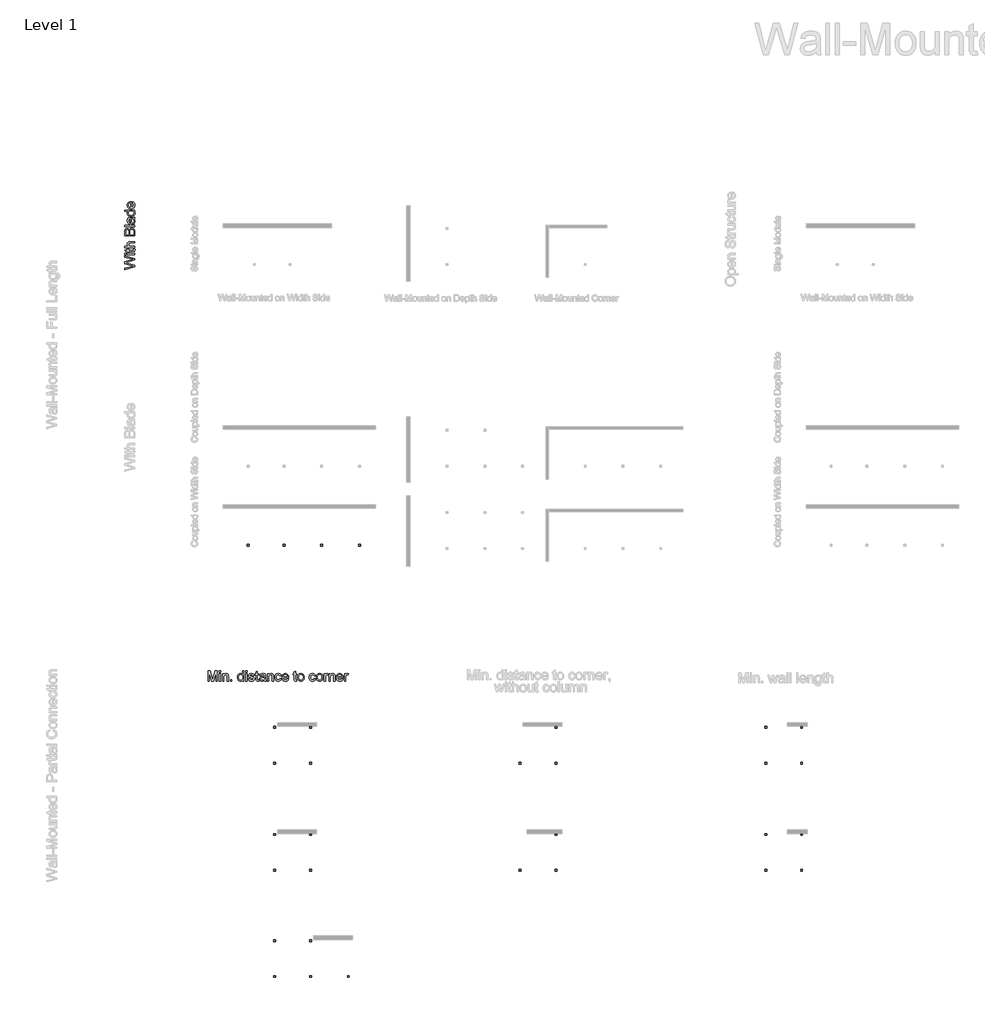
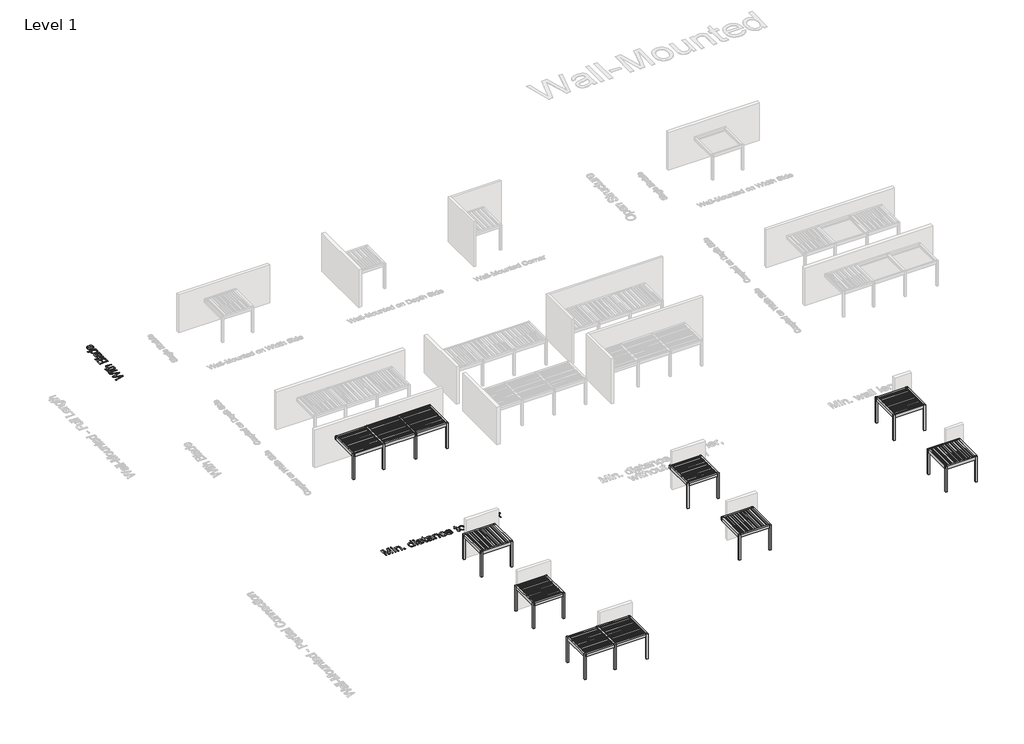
# One storey, part 56 of 80: 10 proxies.
"""IFC4 building model written with IfcOpenShell, lengths in millimetres."""

from ifc_helpers import new_model, si_unit, origin, origin_with_axes, place, context, project, spatial, polyline, outline, extrude, transform, mapped, element, save
from components import generic_models_2c613ce0, generic_models_db7d870b, generic_models_59e5db6b, generic_models_9754287f, generic_models_5084beef, generic_models_72b72d81

model = new_model("IFC4")

# Units and contexts
model_context = context("Model", 3, world=origin())
ifc_project = project(units=[si_unit("LENGTHUNIT", "METRE", prefix="MILLI")], contexts=[model_context])

# Site, building, storey
site = spatial("IfcSite", under=ifc_project)
building = spatial("IfcBuilding", under=site)
storey = spatial("IfcBuildingStorey", under=building, Name="Level 1", Elevation=0.0)

# Proxies
placement = place(None, origin())
generic_models_shape = generic_models_2c613ce0(model_context)
element("IfcBuildingElementProxy", 1, Name="Renson_Amani_Patio_Cover : Renson_Amani_Patio_Cover", ObjectType="Renson_Amani_Patio_Cover : Renson_Amani_Patio_Cover", at=placement, inside=storey, context=model_context, shape_type="MappedRepresentation", body=[
    mapped(generic_models_shape, transform((131453.165057, 45234.0685101, 0.0), x_axis=(1.0, 0.0, 0.0), y_axis=(0.0, 1.0, 0.0), z_axis=(0.0, 0.0, 1.0))),
])
generic_models_2_shape = generic_models_db7d870b(model_context)
element("IfcBuildingElementProxy", 2, Name="Renson_Amani_Patio_Cover : Renson_Amani_Patio_Cover", ObjectType="Renson_Amani_Patio_Cover : Renson_Amani_Patio_Cover", at=placement, inside=storey, context=model_context, shape_type="MappedRepresentation", body=[
    mapped(generic_models_2_shape, transform((133563.165057, 19428.5861401, 0.0), x_axis=(1.0, 0.0, 0.0), y_axis=(0.0, 1.0, 0.0), z_axis=(0.0, 0.0, 1.0))),
])
element("IfcBuildingElementProxy", 3, Name="Renson_Amani_Patio_Cover : Renson_Amani_Patio_Cover", ObjectType="Renson_Amani_Patio_Cover : Renson_Amani_Patio_Cover", at=placement, inside=storey, context=model_context, shape_type="MappedRepresentation", body=[
    mapped(generic_models_2_shape, transform((172563.165057, 27928.5861401, 0.0), x_axis=(1.0, 0.0, 0.0), y_axis=(0.0, 1.0, 0.0), z_axis=(0.0, 0.0, 1.0))),
])
generic_models_3_shape = generic_models_59e5db6b(model_context)
element("IfcBuildingElementProxy", 4, Name="Renson_Amani_Patio_Cover : Renson_Amani_Patio_Cover", ObjectType="Renson_Amani_Patio_Cover : Renson_Amani_Patio_Cover", at=placement, inside=storey, context=model_context, shape_type="MappedRepresentation", body=[
    mapped(generic_models_3_shape, transform((153063.165057, 27928.5861401, 0.0), x_axis=(1.0, 0.0, 0.0), y_axis=(0.0, 1.0, 0.0), z_axis=(0.0, 0.0, 1.0))),
])
generic_models_4_shape = generic_models_9754287f(model_context)
element("IfcBuildingElementProxy", 5, Name="Renson_Amani_Patio_Cover : Renson_Amani_Patio_Cover", ObjectType="Renson_Amani_Patio_Cover : Renson_Amani_Patio_Cover", at=placement, inside=storey, context=model_context, shape_type="MappedRepresentation", body=[
    mapped(generic_models_4_shape, transform((133563.165057, 11004.0136657, 0.0), x_axis=(1.0, 0.0, 0.0), y_axis=(0.0, 1.0, 0.0), z_axis=(0.0, 0.0, 1.0))),
])
generic_models_5_shape = generic_models_5084beef(model_context)
element("IfcBuildingElementProxy", 6, Name="Renson_Amani_Patio_Cover : Renson_Amani_Patio_Cover", ObjectType="Renson_Amani_Patio_Cover : Renson_Amani_Patio_Cover", at=placement, inside=storey, context=model_context, shape_type="MappedRepresentation", body=[
    mapped(generic_models_5_shape, transform((153063.165057, 19428.5861401, 0.0), x_axis=(1.0, 0.0, 0.0), y_axis=(0.0, 1.0, 0.0), z_axis=(0.0, 0.0, 1.0))),
])
generic_models_6_shape = generic_models_72b72d81(model_context)
element("IfcBuildingElementProxy", 7, Name="Renson_Amani_Patio_Cover : Renson_Amani_Patio_Cover", ObjectType="Renson_Amani_Patio_Cover : Renson_Amani_Patio_Cover", at=placement, inside=storey, context=model_context, shape_type="MappedRepresentation", body=[
    mapped(generic_models_6_shape, transform((133563.165057, 27928.5861401, 0.0), x_axis=(1.0, 0.0, 0.0), y_axis=(0.0, 1.0, 0.0), z_axis=(0.0, 0.0, 1.0))),
])
element("IfcBuildingElementProxy", 8, Name="Renson_Amani_Patio_Cover : Renson_Amani_Patio_Cover", ObjectType="Renson_Amani_Patio_Cover : Renson_Amani_Patio_Cover", at=placement, inside=storey, context=model_context, shape_type="MappedRepresentation", body=[
    mapped(generic_models_6_shape, transform((172563.165057, 19428.5861401, 0.0), x_axis=(1.0, 0.0, 0.0), y_axis=(0.0, 1.0, 0.0), z_axis=(0.0, 0.0, 1.0))),
])
element("IfcBuildingElementProxy", 9, Name="800mm Arial", ObjectType="800mm Arial", at=placement, inside=storey, context=model_context, shape_type="SweptSolid", body=[
    extrude(outline(polyline([(121031.971127, 65919.511302), (120232.5824286, 65701.5139446), (120232.5824286, 65804.560144), (120757.9619149, 65931.0259342), (120920.142581, 65970.0585854), (120776.6975875, 66011.8235223), (120232.5824286, 66170.2960865), (120232.5824286, 66318.8153247), (120627.0073699, 66433.961646), (120773.3798122, 66483.289159), (120920.142581, 66519.6383156), (120762.6458331, 66557.4999873), (120232.5824286, 66685.136757), (120232.5824286, 66788.1829564), (121031.971127, 66569.9904357), (121031.971127, 66463.2361344), (120415.2552366, 66271.5858166), (120329.1882405, 66244.8484505), (120432.8199297, 66214.793309), (121031.971127, 66040.1221945), (121031.971127, 65919.511302)])), origin_with_axes(), (0.0, 0.0, 1.0), 5.0),
    extrude(outline(polyline([(121031.971127, 66875.6160953), (120444.9200516, 66875.6160953), (120444.9200516, 66975.5396826), (121031.971127, 66975.5396826), (121031.971127, 66875.6160953)])), origin_with_axes(), (0.0, 0.0, 1.0), 5.0),
    extrude(outline(polyline([(120332.5060159, 66875.6160953), (120232.5824286, 66875.6160953), (120232.5824286, 66975.5396826), (120332.5060159, 66975.5396826), (120332.5060159, 66875.6160953)])), origin_with_axes(), (0.0, 0.0, 1.0), 5.0),
    extrude(outline(polyline([(120948.6364165, 67337.7626865), (121034.8985758, 67350.2531349), (121042.0708255, 67310.6837847), (121044.4615754, 67275.5056077), (121040.3143562, 67227.5442374), (121027.8726986, 67191.7805707), (121008.6979086, 67166.506929), (120984.3512924, 67150.0156338), (120942.5375647, 67140.9405424), (120870.9614404, 67137.9155119), (120544.8436389, 67137.9155119), (120544.8436389, 67062.9728215), (120444.9200516, 67062.9728215), (120444.9200516, 67137.9155119), (120302.2557112, 67137.9155119), (120243.511571, 67237.8390992), (120444.9200516, 67237.8390992), (120444.9200516, 67337.7626865), (120544.8436389, 67337.7626865), (120544.8436389, 67237.8390992), (120868.0339916, 67237.8390992), (120900.9190003, 67239.1564512), (120919.5570913, 67243.1085071), (120929.8763484, 67250.0124073), (120937.8048557, 67260.1852921), (120942.854705, 67274.6029776), (120944.5379881, 67294.2412803), (120948.6364165, 67337.7626865)])), origin_with_axes(), (0.0, 0.0, 1.0), 5.0),
    extrude(outline(polyline([(121031.971127, 67437.6862738), (120232.5824286, 67437.6862738), (120232.5824286, 67537.6098611), (120526.4982928, 67537.6098611), (120485.3432411, 67574.312751), (120455.9467756, 67615.5287912), (120438.3088963, 67661.2579817), (120432.4296032, 67711.5003226), (120434.0336012, 67742.7386413), (120438.8455953, 67771.8545596), (120446.8655853, 67798.8480775), (120458.0935714, 67823.719195), (120472.1514247, 67845.8336315), (120488.6610165, 67864.5571064), (120507.6223466, 67879.8896198), (120529.0354151, 67891.8311715), (120554.2236729, 67900.7964836), (120584.5105708, 67907.200278), (120660.3802867, 67912.3233134), (121031.971127, 67912.3233134), (121031.971127, 67812.3997262), (120670.7239393, 67812.3997262), (120636.9850913, 67810.4115005), (120608.1741156, 67804.4468235), (120584.2910121, 67794.5056951), (120565.3357808, 67780.5881154), (120550.9058976, 67763.0234223), (120540.5988381, 67742.1409538), (120534.4146024, 67717.94071), (120532.3531905, 67690.4226909), (120537.9153433, 67648.1942413), (120554.6018017, 67608.5517048), (120566.7141213, 67590.7552554), (120580.8024689, 67575.7154869), (120596.8668444, 67563.4323995), (120614.907248, 67553.905993), (120660.2339143, 67541.6838941), (120720.1002432, 67537.6098611), (121031.971127, 67537.6098611), (121031.971127, 67437.6862738)])), origin_with_axes(), (0.0, 0.0, 1.0), 5.0),
    extrude(outline(polyline([(121031.971127, 68374.4699047), (120232.5824286, 68374.4699047), (120232.5824286, 68679.5100745), (120234.0522519, 68723.757244), (120238.4617217, 68763.4058793), (120245.8108381, 68798.4559804), (120256.099601, 68828.9075473), (120269.4377898, 68855.5351341), (120285.9351838, 68879.113295), (120305.5917831, 68899.64203), (120328.4075875, 68917.1213392), (120353.0957395, 68931.0816109), (120378.3693812, 68941.0532335), (120404.2285126, 68947.0362071), (120430.6731339, 68949.0305316), (120455.0990352, 68947.3533474), (120478.805272, 68942.3217947), (120501.7918443, 68933.9358735), (120524.0587521, 68922.1955838), (120544.9107263, 68907.0643326), (120563.6524977, 68888.5055267), (120580.2840665, 68866.5191661), (120594.8054326, 68841.1052508), (120607.6618121, 68871.2640728), (120624.3726659, 68897.7269906), (120644.937994, 68920.4940042), (120669.3577965, 68939.5651137), (120696.8880134, 68954.6353764), (120726.7845847, 68965.3998497), (120759.0475105, 68971.8585338), (120793.6767909, 68974.0114284), (120849.420296, 68968.1321353), (120901.1141635, 68950.494256), (120945.074687, 68924.1716118), (120977.61816, 68892.238024), (121001.1841233, 68853.1321865), (121018.2121174, 68805.2927932), (121028.5313746, 68747.1585382), (121031.971127, 68677.1681154), (121031.971127, 68374.4699047)]), holes=[polyline([(120932.0475397, 68474.393492), (120932.0475397, 68679.3149112), (120928.1442745, 68753.4769487), (120919.483905, 68787.898868), (120906.3835714, 68816.2219356), (120887.6235034, 68839.2511999), (120861.9839306, 68857.7917092), (120830.6114371, 68870.0138082), (120794.6526071, 68874.0878411), (120752.8876703, 68869.3063414), (120716.9776311, 68854.961842), (120701.7122051, 68843.9168215), (120688.8985176, 68829.907759), (120678.5365684, 68812.9346545), (120670.6263577, 68792.9975081), (120660.5998454, 68740.7181508), (120657.2576746, 68669.5567484), (120657.2576746, 68474.393492), (120932.0475397, 68474.393492)]), polyline([(120557.3340873, 68474.393492), (120557.3340873, 68656.8711367), (120555.1872915, 68720.6895216), (120548.746904, 68763.4302747), (120533.938892, 68800.7308521), (120511.7634669, 68827.5414045), (120482.5621647, 68843.7155594), (120446.6765209, 68849.1069443), (120411.8398796, 68844.0814905), (120381.4919933, 68829.0051289), (120357.804053, 68804.560931), (120342.9472501, 68771.4319683), (120335.1163245, 68720.59194), (120332.5060159, 68643.0145455), (120332.5060159, 68474.393492), (120557.3340873, 68474.393492)])]), origin_with_axes(), (0.0, 0.0, 1.0), 5.0),
    extrude(outline(polyline([(121031.971127, 69098.9159125), (120232.5824286, 69098.9159125), (120232.5824286, 69198.8394998), (121031.971127, 69198.8394998), (121031.971127, 69098.9159125)])), origin_with_axes(), (0.0, 0.0, 1.0), 5.0),
    extrude(outline(polyline([(120957.0284365, 69723.4383331), (120997.9639295, 69675.6965215), (121013.125675, 69651.2950156), (121024.7500865, 69626.5397763), (121039.5337031, 69574.8459088), (121044.4615754, 69519.4927302), (121041.4975334, 69475.0016065), (121032.6054075, 69435.9872518), (121017.7851978, 69402.449666), (120997.0369041, 69374.388849), (120971.6778784, 69352.2317205), (120943.0254728, 69336.4052002), (120911.0796873, 69326.909288), (120875.8405218, 69323.743984), (120834.4171206, 69328.5254837), (120796.799403, 69342.8699831), (120764.5974656, 69364.9966173), (120739.4214056, 69393.1245216), (120720.3929881, 69426.1802982), (120706.6339785, 69463.090549), (120691.6064077, 69549.5478716), (120675.798184, 69651.7158364), (120657.2576746, 69722.8528434), (120635.0090634, 69723.4383331), (120610.7844242, 69721.7184569), (120590.4142593, 69716.5588283), (120573.8985687, 69707.9594473), (120561.2373524, 69695.920314), (120548.6005316, 69675.1110318), (120539.574231, 69649.7642038), (120534.1584506, 69619.8798302), (120532.3531905, 69585.4579108), (120537.1590857, 69525.9331176), (120543.1664547, 69502.9038534), (120551.5767713, 69484.363344), (120563.0487114, 69469.1284123), (120578.2409512, 69456.015881), (120597.1534905, 69445.0257501), (120619.7863294, 69436.1580197), (120607.295881, 69336.2344324), (120552.6501692, 69353.5795668), (120529.7184865, 69365.4540312), (120509.7142527, 69379.4630937), (120492.2349436, 69396.2105406), (120476.8780349, 69416.3001583), (120463.6435265, 69439.7319468), (120452.5314186, 69466.505906), (120437.4550571, 69527.9091456), (120432.4296032, 69598.3386858), (120436.8695673, 69665.8895679), (120450.1894595, 69719.4374864), (120470.2180887, 69759.811885), (120494.7842636, 69787.8422077), (120525.1565454, 69806.4315079), (120562.6034952, 69818.482839), (120597.1473916, 69822.1421501), (120650.0366341, 69823.3619204), (120774.3556285, 69823.3619204), (120882.6468404, 69824.6304816), (120947.9533451, 69828.4361651), (120990.8648661, 69835.9499505), (121031.971127, 69848.3428172), (121031.971127, 69748.4192299), (120997.2320673, 69732.4158429), (120957.0284365, 69723.4383331)]), holes=[polyline([(120757.1812619, 69723.4383331), (120773.8189295, 69656.3021729), (120787.8218932, 69562.2334833), (120795.482051, 69510.3932433), (120804.0204434, 69476.2640689), (120815.0959582, 69453.8934806), (120830.3674831, 69437.3289992), (120848.6640384, 69427.0829282), (120868.8146446, 69423.6675712), (120884.3423212, 69425.527721), (120898.5282504, 69431.1081704), (120911.3724322, 69440.4089193), (120922.8748666, 69453.4299679), (120932.3524823, 69470.0493389), (120939.1222077, 69490.1450555), (120944.5379881, 69540.7655251), (120938.5611133, 69594.4354206), (120931.0900199, 69618.9284093), (120920.6304892, 69641.8600919), (120894.2102633, 69680.3072535), (120862.7645836, 69707.0446196), (120830.3674831, 69718.9007874), (120785.4799341, 69722.8528434), (120757.1812619, 69723.4383331)])]), origin_with_axes(), (0.0, 0.0, 1.0), 5.0),
    extrude(outline(polyline([(121031.971127, 70322.9798569), (120937.7072741, 70322.9798569), (120984.4122809, 70293.0832855), (121002.7606764, 70275.765596), (121017.7730001, 70256.8683038), (121029.4492518, 70236.391409), (121037.7894315, 70214.3349116), (121042.7935394, 70190.6988116), (121044.4615754, 70165.4831089), (121042.0464301, 70132.5005186), (121034.8009942, 70100.8840711), (121022.7252677, 70070.6337663), (121005.8192506, 70041.7496044), (120984.5891476, 70015.1342153), (120959.5411634, 69991.6902291), (120930.675298, 69971.4176458), (120897.9915514, 69954.3164655), (120862.1120065, 69940.7404215), (120823.6587461, 69931.0432472), (120782.6317703, 69925.2249426), (120739.0310791, 69923.2855077), (120696.2293374, 69925.0724713), (120655.4524145, 69930.433362), (120616.7003104, 69939.3681798), (120579.9730251, 69951.8769248), (120546.3439564, 69967.953498), (120516.8865024, 69987.5918007), (120491.600663, 70010.7918328), (120470.4864382, 70037.5535943), (120453.8365729, 70066.9317633), (120441.943812, 70097.9810176), (120434.8081554, 70130.7013573), (120432.4296032, 70165.0927824), (120434.1311828, 70190.2444471), (120439.2359218, 70213.9811782), (120447.74382, 70236.3029756), (120459.6548775, 70257.2098395), (120490.9541847, 70293.8517409), (120530.4015579, 70322.9798569), (120232.5824286, 70322.9798569), (120232.5824286, 70422.9034442), (121031.971127, 70422.9034442), (121031.971127, 70322.9798569)]), holes=[polyline([(120738.6407525, 70023.209095), (120787.0961298, 70026.0267645), (120829.0257357, 70034.4797731), (120864.4295702, 70048.5681206), (120893.3076333, 70068.2918072), (120915.7209135, 70091.8455727), (120931.7303994, 70117.424157), (120941.3360909, 70145.0275601), (120944.5379881, 70174.655782), (120941.4824633, 70204.4242775), (120932.3158891, 70231.8630115), (120917.0382655, 70256.9719842), (120895.6495923, 70279.7511956), (120867.9791019, 70298.6637349), (120833.8560263, 70312.1726916), (120793.2803655, 70320.2780655), (120746.2521195, 70322.9798569), (120694.6924267, 70320.2292747), (120650.4757514, 70311.9775283), (120613.6020937, 70298.2246176), (120584.0714534, 70278.9705426), (120561.4447134, 70255.6912254), (120545.2827562, 70229.8625882), (120535.5855819, 70201.4846309), (120532.3531905, 70170.5573536), (120535.457506, 70140.343642), (120544.7704527, 70112.7402389), (120560.2920304, 70087.7471444), (120582.0222393, 70065.3643584), (120610.4367896, 70046.9214307), (120646.011392, 70033.7479108), (120688.7460463, 70025.843799), (120738.6407525, 70023.209095)])]), origin_with_axes(), (0.0, 0.0, 1.0), 5.0),
    extrude(outline(polyline([(120857.1048492, 70983.8026432), (120869.5952976, 71081.7745979), (120908.8353099, 71066.753126), (120943.4157994, 71046.4744439), (120973.3367661, 71020.9385515), (120998.5982101, 70990.145449), (121018.6634324, 70954.4122765), (121032.9957341, 70914.0561744), (121041.595115, 70869.0771426), (121044.4615754, 70819.4751812), (121039.5154066, 70757.4742542), (121024.6769002, 70702.2308549), (120999.9460563, 70653.7449834), (120965.3228749, 70612.0166397), (120921.7709744, 70578.4607573), (120870.2539736, 70554.4922698), (120810.7718723, 70540.1111774), (120743.3246707, 70535.3174799), (120673.5903996, 70540.1599682), (120612.1261716, 70554.6874331), (120558.9319865, 70578.8998746), (120535.4361601, 70594.6379616), (120514.0078444, 70612.7972927), (120478.3173639, 70654.4158571), (120452.8241635, 70701.7917376), (120437.5282433, 70754.9249342), (120432.4296032, 70813.8154468), (120437.5160456, 70870.8092165), (120452.7753727, 70922.3506128), (120478.2075845, 70968.4396356), (120513.8126811, 71009.0762849), (120558.6392416, 71042.2479396), (120611.735845, 71065.9419787), (120673.1024915, 71080.1584022), (120742.7391809, 71084.89721), (120769.6717103, 71084.3117202), (120769.6717103, 70635.2410672), (120809.5460031, 70641.0288775), (120844.4680283, 70652.5374108), (120874.4377859, 70669.766667), (120899.4552758, 70692.7166462), (120919.1789624, 70720.1187872), (120933.26731, 70750.7045288), (120941.7203186, 70784.473871), (120944.5379881, 70821.4268138), (120939.317371, 70874.6088012), (120923.6555196, 70919.3987685), (120911.6651771, 70938.6467447), (120896.5766178, 70955.7967159), (120878.3898419, 70970.848682), (120857.1048492, 70983.8026432)]), holes=[polyline([(120669.748123, 70635.2410672), (120669.748123, 70984.9736227), (120641.4738462, 70979.8383895), (120616.9564622, 70971.4585672), (120596.1959708, 70959.8341557), (120579.192372, 70944.9651551), (120558.7002301, 70917.7154854), (120544.0629859, 70886.7089231), (120535.2806393, 70851.945468), (120532.3531905, 70813.4251203), (120534.6890507, 70778.2896353), (120541.6966314, 70746.0694014), (120553.3759325, 70716.7644187), (120569.7269541, 70690.3746871), (120589.9934385, 70668.2297564), (120613.4191281, 70651.6591761), (120640.004023, 70640.6629464), (120669.748123, 70635.2410672)])]), origin_with_axes(), (0.0, 0.0, 1.0), 5.0),
])
element("IfcBuildingElementProxy", 10, Name="800mm Arial", ObjectType="800mm Arial", at=placement, inside=storey, context=model_context, shape_type="SweptSolid", body=[
    extrude(outline(polyline([(126840.588651, 33034.4611831), (126840.588651, 33833.8498815), (127012.5274799, 33833.8498815), (127176.0742888, 33270.4135602), (127209.0568792, 33152.7301165), (127244.7717551, 33280.171723), (127405.5862784, 33833.8498815), (127577.5251073, 33833.8498815), (127577.5251073, 33034.4611831), (127477.60152, 33034.4611831), (127477.60152, 33733.9262942), (127276.7785291, 33034.4611831), (127141.3352292, 33034.4611831), (126940.5122383, 33733.9262942), (126940.5122383, 33034.4611831), (126840.588651, 33034.4611831)])), origin_with_axes(), (0.0, 0.0, 1.0), 5.0),
    extrude(outline(polyline([(127739.9009367, 33733.9262942), (127739.9009367, 33833.8498815), (127839.824524, 33833.8498815), (127839.824524, 33733.9262942), (127739.9009367, 33733.9262942)])), origin_with_axes(), (0.0, 0.0, 1.0), 5.0),
    extrude(outline(polyline([(127739.9009367, 33034.4611831), (127739.9009367, 33621.5122585), (127839.824524, 33621.5122585), (127839.824524, 33034.4611831), (127739.9009367, 33034.4611831)])), origin_with_axes(), (0.0, 0.0, 1.0), 5.0),
    extrude(outline(polyline([(127989.7099049, 33034.4611831), (127989.7099049, 33621.5122585), (128089.6334922, 33621.5122585), (128089.6334922, 33539.5436908), (128106.1186885, 33561.6825227), (128124.3481564, 33580.8695103), (128144.3218959, 33597.1046537), (128166.0399071, 33610.3879529), (128189.5021898, 33620.7194077), (128214.7087442, 33628.0990184), (128270.3546676, 33634.0027069), (128319.6089945, 33629.2456025), (128364.7161021, 33614.9742894), (128402.3338198, 33592.9696322), (128429.1199767, 33565.0124957), (128447.294555, 33531.1760661), (128459.0775366, 33491.5335297), (128463.0295926, 33453.6230671), (128464.3469445, 33394.9277178), (128464.3469445, 33034.4611831), (128364.4233572, 33034.4611831), (128364.4233572, 33381.4614531), (128361.5446992, 33433.1309252), (128352.9087251, 33469.8704082), (128336.9785243, 33496.1930524), (128312.2171861, 33516.6120081), (128280.4787616, 33529.7123417), (128243.6173015, 33534.0791196), (128213.275514, 33531.6273812), (128185.09272, 33524.272166), (128159.0689195, 33512.0134739), (128135.2041126, 33494.851305), (128115.2669661, 33470.8340268), (128101.0261473, 33438.0100066), (128092.481656, 33396.3792445), (128089.6334922, 33345.9417404), (128089.6334922, 33034.4611831), (127989.7099049, 33034.4611831)])), origin_with_axes(), (0.0, 0.0, 1.0), 5.0),
    extrude(outline(polyline([(128626.7227739, 33034.4611831), (128626.7227739, 33134.3847704), (128726.6463612, 33134.3847704), (128726.6463612, 33034.4611831), (128626.7227739, 33034.4611831)])), origin_with_axes(), (0.0, 0.0, 1.0), 5.0),
    extrude(outline(polyline([(129588.4873016, 33034.4611831), (129588.4873016, 33128.725036), (129558.5907302, 33082.0200292), (129541.2730406, 33063.6716336), (129522.3757485, 33048.65931), (129501.8988537, 33036.9830583), (129479.8423563, 33028.6428785), (129456.2062563, 33023.6387707), (129430.9905536, 33021.9707347), (129398.0079633, 33024.38588), (129366.3915158, 33031.6313159), (129336.141211, 33043.7070424), (129307.2570491, 33060.6130595), (129280.64166, 33081.8431625), (129257.1976738, 33106.8911467), (129236.9250905, 33135.7570121), (129219.8239102, 33168.4407587), (129206.2478662, 33204.3203036), (129196.5506918, 33242.773564), (129190.7323873, 33283.8005398), (129188.7929524, 33327.401231), (129190.579916, 33370.2029727), (129195.9408067, 33410.9798956), (129204.8756245, 33449.7319997), (129217.3843695, 33486.459285), (129233.4609427, 33520.0883536), (129253.0992454, 33549.5458077), (129276.2992775, 33574.8316471), (129303.061039, 33595.9458719), (129332.439208, 33612.5957372), (129363.4884623, 33624.4884981), (129396.208802, 33631.6241547), (129430.6002271, 33634.0027069), (129455.7518918, 33632.3011272), (129479.4886229, 33627.1963883), (129501.8104203, 33618.6884901), (129522.7172842, 33606.7774326), (129559.3591856, 33575.4781254), (129588.4873016, 33536.0307522), (129588.4873016, 33833.8498815), (129688.4108889, 33833.8498815), (129688.4108889, 33034.4611831), (129588.4873016, 33034.4611831)]), holes=[polyline([(129288.7165397, 33327.7915575), (129291.5342092, 33279.3361803), (129299.9872178, 33237.4065744), (129314.0755653, 33202.0027399), (129333.7992519, 33173.1246768), (129357.3530174, 33150.7113966), (129382.9316017, 33134.7019107), (129410.5350048, 33125.0962192), (129440.1632267, 33121.894322), (129469.9317221, 33124.9498467), (129497.3704562, 33134.1164209), (129522.4794289, 33149.3940446), (129545.2586403, 33170.7827177), (129564.1711796, 33198.4532082), (129577.6801363, 33232.5762838), (129585.7855102, 33273.1519446), (129588.4873016, 33320.1801905), (129585.7367194, 33371.7398833), (129577.484973, 33415.9565586), (129563.7320623, 33452.8302164), (129544.4779873, 33482.3608566), (129521.1986701, 33504.9875967), (129495.3700329, 33521.1495539), (129466.9920756, 33530.8467282), (129436.0647983, 33534.0791196), (129405.8510867, 33530.974804), (129378.2476836, 33521.6618574), (129353.2545891, 33506.1402797), (129330.8718031, 33484.4100708), (129312.4288754, 33455.9955205), (129299.2553555, 33420.4209181), (129291.3512437, 33377.6862638), (129288.7165397, 33327.7915575)])]), origin_with_axes(), (0.0, 0.0, 1.0), 5.0),
    extrude(outline(polyline([(129838.2962698, 33034.4611831), (129838.2962698, 33621.5122585), (129938.2198571, 33621.5122585), (129938.2198571, 33034.4611831), (129838.2962698, 33034.4611831)])), origin_with_axes(), (0.0, 0.0, 1.0), 5.0),
    extrude(outline(polyline([(129838.2962698, 33733.9262942), (129838.2962698, 33833.8498815), (129938.2198571, 33833.8498815), (129938.2198571, 33733.9262942), (129838.2962698, 33733.9262942)])), origin_with_axes(), (0.0, 0.0, 1.0), 5.0),
    extrude(outline(polyline([(130050.6338928, 33209.3274609), (130150.5574801, 33221.8179093), (130156.5953433, 33199.0325991), (130166.3169131, 33179.0771561), (130179.7221892, 33161.9515804), (130196.8111719, 33147.6558719), (130217.6326518, 33136.3851938), (130242.2354198, 33128.3347095), (130270.6194759, 33123.5044189), (130302.7848201, 33121.894322), (130334.9135712, 33123.3702441), (130362.6023582, 33127.7980105), (130385.8511811, 33135.1776211), (130404.66004, 33145.509076), (130419.1753072, 33157.8287566), (130429.5433552, 33171.1730443), (130435.764184, 33185.541939), (130437.8377936, 33200.9354409), (130435.7519863, 33214.426101), (130429.4945644, 33226.4042458), (130419.0655278, 33236.8698755), (130404.4648767, 33245.8229898), (130367.0423223, 33258.5086015), (130301.6138406, 33274.3168253), (130210.423809, 33300.6882603), (130151.1429699, 33323.205221), (130113.0617395, 33347.7713959), (130097.9548836, 33363.0368219), (130085.4705341, 33380.2904735), (130068.7108894, 33418.6888442), (130063.1243412, 33460.8928984), (130067.6130961, 33499.6084094), (130081.0793608, 33535.3476808), (130102.3033649, 33566.6957788), (130130.0653382, 33592.23777), (130157.6565436, 33608.3143433), (130193.5909781, 33621.8050034), (130235.1363564, 33630.953281), (130279.5603926, 33634.0027069), (130344.5985478, 33629.0992301), (130401.1471014, 33614.3887996), (130446.6201401, 33591.3107445), (130464.233624, 33577.1736061), (130478.4317509, 33561.3043939), (130499.5093826, 33522.1497655), (130512.780484, 33471.6268775), (130412.8568967, 33459.1364291), (130408.0936935, 33475.8289864), (130400.2444713, 33490.5821088), (130389.3092301, 33503.3957964), (130375.2879699, 33514.2700491), (130358.1197022, 33522.9365174), (130337.7434384, 33529.126852), (130287.3669229, 33534.0791196), (130229.9889255, 33529.3464106), (130208.4721764, 33523.4305244), (130191.7369272, 33515.1482837), (130170.2201782, 33494.6561418), (130164.8409909, 33483.2390913), (130163.0479285, 33471.0413878), (130166.0241682, 33455.6722813), (130174.9528872, 33441.9620626), (130190.224412, 33429.7155682), (130212.2290691, 33419.9086146), (130298.2960652, 33398.6358196), (130386.5830433, 33372.5327341), (130444.9612524, 33351.6014748), (130483.7011588, 33329.1089095), (130513.0732289, 33298.3219058), (130523.8742954, 33279.7935942), (130531.5893429, 33259.1428821), (130536.2183714, 33236.3697696), (130537.7613809, 33211.4742567), (130535.9500219, 33186.4689645), (130530.515945, 33162.1955345), (130521.4591501, 33138.6539667), (130508.7796373, 33115.8442611), (130492.6847675, 33094.6751466), (130473.3819016, 33076.0553522), (130450.8710398, 33059.9848778), (130425.1521819, 33046.4637234), (130396.9266959, 33035.7480408), (130366.8959499, 33028.0939819), (130335.0599436, 33023.5015465), (130301.4186773, 33021.9707347), (130247.6390025, 33024.922579), (130200.6656462, 33033.7781117), (130160.4986085, 33048.537333), (130127.1378893, 33069.2002428), (130099.8882196, 33095.6692594), (130078.0543303, 33127.8468013), (130061.6362214, 33165.7328685), (130050.6338928, 33209.3274609)])), origin_with_axes(), (0.0, 0.0, 1.0), 5.0),
    extrude(outline(polyline([(130862.5130396, 33117.7958936), (130875.003488, 33031.5337343), (130835.4341377, 33024.3614846), (130800.2559608, 33021.9707347), (130752.2945905, 33026.1179539), (130716.5309237, 33038.5596115), (130691.257282, 33057.7344015), (130674.7659869, 33082.0810177), (130665.6908954, 33123.8947454), (130662.665865, 33195.4708697), (130662.665865, 33521.5886712), (130587.7231745, 33521.5886712), (130587.7231745, 33621.5122585), (130662.665865, 33621.5122585), (130662.665865, 33764.1765989), (130762.5894523, 33822.9207391), (130762.5894523, 33621.5122585), (130862.5130396, 33621.5122585), (130862.5130396, 33521.5886712), (130762.5894523, 33521.5886712), (130762.5894523, 33198.3983185), (130763.9068042, 33165.5133098), (130767.8588602, 33146.8752188), (130774.7627604, 33136.5559616), (130784.9356451, 33128.6274544), (130799.3533307, 33123.5776051), (130818.9916334, 33121.894322), (130862.5130396, 33117.7958936)])), origin_with_axes(), (0.0, 0.0, 1.0), 5.0),
    extrude(outline(polyline([(131337.1500792, 33109.4038736), (131289.4082676, 33068.4683806), (131265.0067617, 33053.3066351), (131240.2515224, 33041.6822236), (131188.5576548, 33026.8986069), (131133.2044762, 33021.9707347), (131088.7133526, 33024.9347767), (131049.6989979, 33033.8269025), (131016.161412, 33048.6471123), (130988.1005951, 33069.395406), (130965.9434666, 33094.7544317), (130950.1169463, 33123.4068372), (130940.6210341, 33155.3526228), (130937.45573, 33190.5917883), (130942.2372298, 33232.0151894), (130956.5817292, 33269.6329071), (130978.7083634, 33301.8348444), (131006.8362677, 33327.0109045), (131039.8920442, 33346.039322), (131076.8022951, 33359.7983316), (131163.2596177, 33374.8259023), (131265.4275825, 33390.6341261), (131336.5645894, 33409.1746355), (131337.1500792, 33431.4232467), (131335.430203, 33455.6478859), (131330.2705744, 33476.0180508), (131321.6711934, 33492.5337414), (131309.63206, 33505.1949576), (131288.8227778, 33517.8317785), (131263.4759499, 33526.8580791), (131233.5915763, 33532.2738595), (131199.1696569, 33534.0791196), (131139.6448637, 33529.2732244), (131116.6155994, 33523.2658554), (131098.0750901, 33514.8555388), (131082.8401584, 33503.3835987), (131069.7276271, 33488.1913589), (131058.7374962, 33469.2788196), (131049.8697657, 33446.6459807), (130949.9461784, 33459.1364291), (130967.2913129, 33513.7821409), (130979.1657772, 33536.7138236), (130993.1748397, 33556.7180573), (131009.9222867, 33574.1973665), (131030.0119044, 33589.5542752), (131053.4436929, 33602.7887836), (131080.2176521, 33613.9008915), (131141.6208917, 33628.977253), (131212.0504318, 33634.0027069), (131279.601314, 33629.5627428), (131333.1492324, 33616.2428505), (131373.5236311, 33596.2142214), (131401.5539538, 33571.6480465), (131420.143254, 33541.2757647), (131432.1945851, 33503.8288148), (131435.8538961, 33469.2849185), (131437.0736665, 33416.395676), (131437.0736665, 33292.0766816), (131438.3422277, 33183.7854697), (131442.1479112, 33118.478965), (131449.6616965, 33075.567444), (131462.0545633, 33034.4611831), (131362.130976, 33034.4611831), (131346.127589, 33069.2002428), (131337.1500792, 33109.4038736)]), holes=[polyline([(131337.1500792, 33309.2510482), (131270.013919, 33292.6133806), (131175.9452294, 33278.6104169), (131124.1049894, 33270.9502591), (131089.9758149, 33262.4118666), (131067.6052267, 33251.3363518), (131051.0407453, 33236.064827), (131040.7946743, 33217.7682717), (131037.3793173, 33197.6176655), (131039.2394671, 33182.0899889), (131044.8199165, 33167.9040597), (131054.1206654, 33155.0598779), (131067.1417139, 33143.5574435), (131083.761085, 33134.0798278), (131103.8568015, 33127.3101024), (131154.4772712, 33121.894322), (131208.1471667, 33127.8711967), (131232.6401554, 33135.3422901), (131255.571838, 33145.8018209), (131294.0189995, 33172.2220468), (131320.7563657, 33203.6677265), (131332.6125335, 33236.064827), (131336.5645894, 33280.952376), (131337.1500792, 33309.2510482)])]), origin_with_axes(), (0.0, 0.0, 1.0), 5.0),
    extrude(outline(polyline([(131574.468599, 33034.4611831), (131574.468599, 33621.5122585), (131674.3921863, 33621.5122585), (131674.3921863, 33539.5436908), (131690.8773826, 33561.6825227), (131709.1068506, 33580.8695103), (131729.0805901, 33597.1046537), (131750.7986012, 33610.3879529), (131774.2608839, 33620.7194077), (131799.4674383, 33628.0990184), (131855.1133618, 33634.0027069), (131904.3676886, 33629.2456025), (131949.4747963, 33614.9742894), (131987.0925139, 33592.9696322), (132013.8786709, 33565.0124957), (132032.0532491, 33531.1760661), (132043.8362307, 33491.5335297), (132047.7882867, 33453.6230671), (132049.1056387, 33394.9277178), (132049.1056387, 33034.4611831), (131949.1820514, 33034.4611831), (131949.1820514, 33381.4614531), (131946.3033933, 33433.1309252), (131937.6674192, 33469.8704082), (131921.7372184, 33496.1930524), (131896.9758803, 33516.6120081), (131865.2374557, 33529.7123417), (131828.3759956, 33534.0791196), (131798.0342081, 33531.6273812), (131769.8514141, 33524.272166), (131743.8276136, 33512.0134739), (131719.9628067, 33494.851305), (131700.0256603, 33470.8340268), (131685.7848414, 33438.0100066), (131677.2403501, 33396.3792445), (131674.3921863, 33345.9417404), (131674.3921863, 33034.4611831), (131574.468599, 33034.4611831)])), origin_with_axes(), (0.0, 0.0, 1.0), 5.0),
    extrude(outline(polyline([(132561.2140235, 33246.7988061), (132661.1376108, 33234.3083577), (132650.269457, 33187.1581347), (132633.278056, 33145.4358898), (132610.1634078, 33109.141623), (132580.9255124, 33078.2753342), (132546.796338, 33053.6420719), (132509.0078524, 33036.0468846), (132467.5600559, 33025.4897722), (132422.4529482, 33021.9707347), (132366.4105994, 33026.8803104), (132316.1621597, 33041.6090374), (132271.7076292, 33066.1569157), (132233.0470078, 33100.5239454), (132201.7537994, 33144.0636482), (132179.4015077, 33196.1295457), (132165.9901327, 33256.7216379), (132161.5196744, 33325.839925), (132163.428615, 33371.7825753), (132169.1554368, 33414.7611837), (132178.7001398, 33454.7757501), (132192.062724, 33491.8262746), (132209.3346722, 33525.1686972), (132230.6074671, 33554.058958), (132255.8811088, 33578.497057), (132285.1555973, 33598.4829942), (132317.1074817, 33614.0228685), (132350.4133112, 33625.1227787), (132385.0730858, 33631.7827248), (132421.0868054, 33634.0027069), (132465.4193589, 33630.953281), (132505.5193092, 33621.8050034), (132541.3866565, 33606.5578739), (132573.0214005, 33585.2118928), (132599.8868426, 33558.254968), (132621.4462836, 33526.1750077), (132637.6997235, 33488.9720119), (132648.6471624, 33446.6459807), (132548.7235751, 33434.1555323), (132540.9231437, 33457.495838), (132530.5977877, 33477.7501247), (132517.747507, 33494.9183924), (132502.3723017, 33509.0006411), (132484.8624983, 33519.9724755), (132465.6084233, 33527.8095), (132444.6100767, 33532.5117147), (132421.8674584, 33534.0791196), (132387.9151507, 33530.9931006), (132357.292816, 33521.7350436), (132330.0004543, 33506.3049487), (132306.0380658, 33484.7028157), (132286.527839, 33456.4285389), (132272.5919627, 33420.9820125), (132264.2304369, 33378.3632364), (132261.4432617, 33328.5722106), (132264.1694484, 33278.031026), (132272.3480086, 33234.9182429), (132285.9789423, 33199.2338612), (132305.0622495, 33170.977881), (132328.5489276, 33149.5038239), (132355.3899742, 33134.1652118), (132385.5853893, 33124.9620444), (132419.1351729, 33121.894322), (132446.1713827, 33123.8093615), (132470.8778312, 33129.5544798), (132493.2545183, 33139.1296771), (132513.3014441, 33152.5349533), (132530.4575141, 33169.9166808), (132544.161634, 33191.4212321), (132554.4138038, 33217.0486072), (132561.2140235, 33246.7988061)])), origin_with_axes(), (0.0, 0.0, 1.0), 5.0),
    extrude(outline(polyline([(133159.5845678, 33209.3274609), (133257.5565225, 33196.8370125), (133242.5350506, 33157.5970002), (133222.2563685, 33123.0165107), (133196.7204761, 33093.095544), (133165.9273736, 33067.8341), (133130.1942011, 33047.7688777), (133089.838099, 33033.436576), (133044.8590672, 33024.837195), (132995.2571058, 33021.9707347), (132933.2561788, 33026.9169035), (132878.0127795, 33041.7554098), (132829.526908, 33066.4862537), (132787.7985643, 33101.1094352), (132754.2426818, 33144.6613356), (132730.2741944, 33196.1783365), (132715.893102, 33255.6604377), (132711.0994045, 33323.1076394), (132715.9418928, 33392.8419105), (132730.4693577, 33454.3061385), (132754.6817992, 33507.5003236), (132770.4198862, 33530.99615), (132788.5792173, 33552.4244657), (132830.1977817, 33588.1149462), (132877.5736622, 33613.6081466), (132930.7068588, 33628.9040668), (132989.5973714, 33634.0027069), (133046.5911411, 33628.9162645), (133098.1325374, 33613.6569374), (133144.2215602, 33588.2247255), (133184.8582095, 33552.6196289), (133218.0298642, 33507.7930685), (133241.7239033, 33454.696465), (133255.9403268, 33393.3298186), (133260.6791346, 33323.6931292), (133260.0936448, 33296.7605998), (132811.0229918, 33296.7605998), (132816.8108021, 33256.8863069), (132828.3193354, 33221.9642817), (132845.5485916, 33191.9945242), (132868.4985708, 33166.9770342), (132895.9007118, 33147.2533476), (132926.4864534, 33133.1650001), (132960.2557956, 33124.7119915), (132997.2087384, 33121.894322), (133050.3907258, 33127.1149391), (133095.1806931, 33142.7767904), (133114.4286693, 33154.767133), (133131.5786405, 33169.8556923), (133146.6306066, 33188.0424682), (133159.5845678, 33209.3274609)]), holes=[polyline([(132811.0229918, 33396.6841871), (133160.7555473, 33396.6841871), (133155.6203141, 33424.9584638), (133147.2404918, 33449.4758479), (133135.6160803, 33470.2363393), (133120.7470797, 33487.239938), (133093.49741, 33507.73208), (133062.4908477, 33522.3693242), (133027.7273926, 33531.1516707), (132989.2070449, 33534.0791196), (132954.0715599, 33531.7432594), (132921.851326, 33524.7356787), (132892.5463433, 33513.0563776), (132866.1566117, 33496.705356), (132844.011681, 33476.4388716), (132827.4411007, 33453.0131819), (132816.444871, 33426.4282871), (132811.0229918, 33396.6841871)])]), origin_with_axes(), (0.0, 0.0, 1.0), 5.0),
    extrude(outline(polyline([(133885.2015552, 33117.7958936), (133897.6920036, 33031.5337343), (133858.1226533, 33024.3614846), (133822.9444764, 33021.9707347), (133774.9831061, 33026.1179539), (133739.2194394, 33038.5596115), (133713.9457976, 33057.7344015), (133697.4545025, 33082.0810177), (133688.3794111, 33123.8947454), (133685.3543806, 33195.4708697), (133685.3543806, 33521.5886712), (133610.4116901, 33521.5886712), (133610.4116901, 33621.5122585), (133685.3543806, 33621.5122585), (133685.3543806, 33764.1765989), (133785.2779679, 33822.9207391), (133785.2779679, 33621.5122585), (133885.2015552, 33621.5122585), (133885.2015552, 33521.5886712), (133785.2779679, 33521.5886712), (133785.2779679, 33198.3983185), (133786.5953199, 33165.5133098), (133790.5473758, 33146.8752188), (133797.451276, 33136.5559616), (133807.6241607, 33128.6274544), (133822.0418463, 33123.5776051), (133841.680149, 33121.894322), (133885.2015552, 33117.7958936)])), origin_with_axes(), (0.0, 0.0, 1.0), 5.0),
    extrude(outline(polyline([(133960.1442456, 33327.9867208), (133965.5478283, 33404.0150069), (133972.3023066, 33438.0862423), (133981.7585763, 33469.5288725), (133993.9166373, 33498.3428977), (134008.7764896, 33524.5283177), (134026.3381332, 33548.0851327), (134046.6015682, 33569.0133425), (134084.6827986, 33597.4461894), (134126.716085, 33617.7553658), (134172.7014273, 33629.9408716), (134222.6388255, 33634.0027069), (134277.7663466, 33629.0565381), (134327.6122621, 33614.2180318), (134372.1765719, 33589.4871879), (134411.4592761, 33554.8640064), (134443.5209399, 33511.5194669), (134466.4221282, 33460.6245489), (134480.1628412, 33402.1792525), (134484.7430789, 33336.1835776), (134482.7182601, 33282.6966476), (134476.6438038, 33235.2353832), (134466.5197099, 33193.7997843), (134452.3459784, 33158.389851), (134434.299476, 33127.8041094), (134412.5570694, 33100.8410857), (134387.1187587, 33077.50078), (134357.9845439, 33057.7831923), (134326.2888113, 33042.1152421), (134293.1659473, 33030.9238491), (134258.6159521, 33024.2090133), (134222.6388255, 33021.9707347), (134166.706256, 33026.8986069), (134116.3968278, 33041.6822236), (134071.7105409, 33066.3215847), (134032.6473954, 33100.8166903), (134000.9272674, 33144.5820506), (133978.2700331, 33197.0321757), (133964.6756925, 33258.1670658), (133960.1442456, 33327.9867208)]), holes=[polyline([(134060.0678329, 33328.1818841), (134062.9586887, 33279.7143091), (134071.6312559, 33237.7481101), (134086.0855346, 33202.2832871), (134106.3215247, 33173.3198401), (134130.9364904, 33150.8211759), (134158.5276958, 33134.7507015), (134189.0951408, 33125.1084169), (134222.6388255, 33121.894322), (134256.0117424, 33125.1267134), (134286.4572104, 33134.8238877), (134313.9752295, 33150.9858449), (134338.5657999, 33173.612585), (134358.80179, 33202.862678), (134373.2560687, 33238.8946942), (134381.9286359, 33281.7086336), (134384.8194916, 33331.3044962), (134381.9103393, 33378.2351605), (134373.1828825, 33419.1035661), (134358.637121, 33453.9097132), (134338.273055, 33482.6536015), (134313.5910019, 33505.1522657), (134286.0912793, 33521.2227401), (134255.7738872, 33530.8650247), (134222.6388255, 33534.0791196), (134189.0951408, 33530.8772224), (134158.5276958, 33521.2715309), (134130.9364904, 33505.262045), (134106.3215247, 33482.8487648), (134086.0855346, 33453.9707017), (134071.6312559, 33418.5668672), (134062.9586887, 33376.6372613), (134060.0678329, 33328.1818841)])]), origin_with_axes(), (0.0, 0.0, 1.0), 5.0),
    extrude(outline(polyline([(135284.1317773, 33246.7988061), (135384.0553646, 33234.3083577), (135373.1872107, 33187.1581347), (135356.1958097, 33145.4358898), (135333.0811615, 33109.141623), (135303.8432662, 33078.2753342), (135269.7140917, 33053.6420719), (135231.9256062, 33036.0468846), (135190.4778096, 33025.4897722), (135145.3707019, 33021.9707347), (135089.3283531, 33026.8803104), (135039.0799134, 33041.6090374), (134994.6253829, 33066.1569157), (134955.9647616, 33100.5239454), (134924.6715532, 33144.0636482), (134902.3192615, 33196.1295457), (134888.9078864, 33256.7216379), (134884.4374281, 33325.839925), (134886.3463687, 33371.7825753), (134892.0731905, 33414.7611837), (134901.6178935, 33454.7757501), (134914.9804777, 33491.8262746), (134932.2524259, 33525.1686972), (134953.5252209, 33554.058958), (134978.7988626, 33578.497057), (135008.073351, 33598.4829942), (135040.0252354, 33614.0228685), (135073.3310649, 33625.1227787), (135107.9908395, 33631.7827248), (135144.0045591, 33634.0027069), (135188.3371126, 33630.953281), (135228.437063, 33621.8050034), (135264.3044102, 33606.5578739), (135295.9391543, 33585.2118928), (135322.8045963, 33558.254968), (135344.3640373, 33526.1750077), (135360.6174772, 33488.9720119), (135371.5649161, 33446.6459807), (135271.6413289, 33434.1555323), (135263.8408974, 33457.495838), (135253.5155414, 33477.7501247), (135240.6652607, 33494.9183924), (135225.2900554, 33509.0006411), (135207.780252, 33519.9724755), (135188.526177, 33527.8095), (135167.5278304, 33532.5117147), (135144.7852122, 33534.0791196), (135110.8329044, 33530.9931006), (135080.2105697, 33521.7350436), (135052.9182081, 33506.3049487), (135028.9558195, 33484.7028157), (135009.4455927, 33456.4285389), (134995.5097164, 33420.9820125), (134987.1481906, 33378.3632364), (134984.3610154, 33328.5722106), (134987.0872021, 33278.031026), (134995.2657623, 33234.9182429), (135008.896696, 33199.2338612), (135027.9800032, 33170.977881), (135051.4666813, 33149.5038239), (135078.3077279, 33134.1652118), (135108.503143, 33124.9620444), (135142.0529266, 33121.894322), (135169.0891364, 33123.8093615), (135193.7955849, 33129.5544798), (135216.1722721, 33139.1296771), (135236.2191978, 33152.5349533), (135253.3752678, 33169.9166808), (135267.0793877, 33191.4212321), (135277.3315575, 33217.0486072), (135284.1317773, 33246.7988061)])), origin_with_axes(), (0.0, 0.0, 1.0), 5.0),
    extrude(outline(polyline([(135446.5076066, 33327.9867208), (135451.9111893, 33404.0150069), (135458.6656676, 33438.0862423), (135468.1219373, 33469.5288725), (135480.2799983, 33498.3428977), (135495.1398506, 33524.5283177), (135512.7014942, 33548.0851327), (135532.9649292, 33569.0133425), (135571.0461596, 33597.4461894), (135613.079446, 33617.7553658), (135659.0647883, 33629.9408716), (135709.0021865, 33634.0027069), (135764.1297076, 33629.0565381), (135813.9756231, 33614.2180318), (135858.5399329, 33589.4871879), (135897.8226371, 33554.8640064), (135929.8843008, 33511.5194669), (135952.7854892, 33460.6245489), (135966.5262022, 33402.1792525), (135971.1064399, 33336.1835776), (135969.0816211, 33282.6966476), (135963.0071648, 33235.2353832), (135952.8830708, 33193.7997843), (135938.7093393, 33158.389851), (135920.662837, 33127.8041094), (135898.9204304, 33100.8410857), (135873.4821197, 33077.50078), (135844.3479048, 33057.7831923), (135812.6521722, 33042.1152421), (135779.5293083, 33030.9238491), (135744.9793131, 33024.2090133), (135709.0021865, 33021.9707347), (135653.069617, 33026.8986069), (135602.7601888, 33041.6822236), (135558.0739019, 33066.3215847), (135519.0107564, 33100.8166903), (135487.2906284, 33144.5820506), (135464.6333941, 33197.0321757), (135451.0390535, 33258.1670658), (135446.5076066, 33327.9867208)]), holes=[polyline([(135546.4311939, 33328.1818841), (135549.3220496, 33279.7143091), (135557.9946169, 33237.7481101), (135572.4488955, 33202.2832871), (135592.6848857, 33173.3198401), (135617.2998514, 33150.8211759), (135644.8910568, 33134.7507015), (135675.4585018, 33125.1084169), (135709.0021865, 33121.894322), (135742.3751034, 33125.1267134), (135772.8205714, 33134.8238877), (135800.3385905, 33150.9858449), (135824.9291608, 33173.612585), (135845.165151, 33202.862678), (135859.6194297, 33238.8946942), (135868.2919969, 33281.7086336), (135871.1828526, 33331.3044962), (135868.2737003, 33378.2351605), (135859.5462434, 33419.1035661), (135845.000482, 33453.9097132), (135824.6364159, 33482.6536015), (135799.9543629, 33505.1522657), (135772.4546403, 33521.2227401), (135742.1372481, 33530.8650247), (135709.0021865, 33534.0791196), (135675.4585018, 33530.8772224), (135644.8910568, 33521.2715309), (135617.2998514, 33505.262045), (135592.6848857, 33482.8487648), (135572.4488955, 33453.9707017), (135557.9946169, 33418.5668672), (135549.3220496, 33376.6372613), (135546.4311939, 33328.1818841)])]), origin_with_axes(), (0.0, 0.0, 1.0), 5.0),
    extrude(outline(polyline([(136083.5204756, 33034.4611831), (136083.5204756, 33621.5122585), (136170.9536145, 33621.5122585), (136170.9536145, 33534.6646094), (136203.2531334, 33585.0167295), (136218.451472, 33602.4350502), (136233.01553, 33614.6815445), (136262.8755083, 33629.1724163), (136295.4677721, 33634.0027069), (136320.2535057, 33632.0754697), (136345.2344025, 33626.2937583), (136370.4104626, 33616.6575725), (136395.7816859, 33603.1669124), (136362.408769, 33513.5869777), (136327.2793829, 33528.9560841), (136292.1499967, 33534.0791196), (136262.3144139, 33529.1512474), (136235.650234, 33514.3676307), (136214.1090896, 33490.8504583), (136199.6426132, 33459.7219189), (136187.4937005, 33403.9052275), (136183.4440629, 33343.0142915), (136183.4440629, 33034.4611831), (136083.5204756, 33034.4611831)])), origin_with_axes(), (0.0, 0.0, 1.0), 5.0),
    extrude(outline(polyline([(136458.233928, 33034.4611831), (136458.233928, 33621.5122585), (136558.1575152, 33621.5122585), (136558.1575152, 33539.5436908), (136574.6427116, 33561.6825227), (136592.8721795, 33580.8695103), (136612.845919, 33597.1046537), (136634.5639301, 33610.3879529), (136658.0262129, 33620.7194077), (136683.2327672, 33628.0990184), (136738.8786907, 33634.0027069), (136788.1330175, 33629.2456025), (136833.2401252, 33614.9742894), (136870.8578429, 33592.9696322), (136897.6439998, 33565.0124957), (136915.8185781, 33531.1760661), (136927.6015597, 33491.5335297), (136931.5536156, 33453.6230671), (136932.8709676, 33394.9277178), (136932.8709676, 33034.4611831), (136832.9473803, 33034.4611831), (136832.9473803, 33381.4614531), (136830.0687223, 33433.1309252), (136821.4327482, 33469.8704082), (136805.5025474, 33496.1930524), (136780.7412092, 33516.6120081), (136749.0027846, 33529.7123417), (136712.1413246, 33534.0791196), (136681.799537, 33531.6273812), (136653.616743, 33524.272166), (136627.5929426, 33512.0134739), (136603.7281356, 33494.851305), (136583.7909892, 33470.8340268), (136569.5501703, 33438.0100066), (136561.005679, 33396.3792445), (136558.1575152, 33345.9417404), (136558.1575152, 33034.4611831), (136458.233928, 33034.4611831)])), origin_with_axes(), (0.0, 0.0, 1.0), 5.0),
    extrude(outline(polyline([(137481.2797182, 33209.3274609), (137579.2516729, 33196.8370125), (137564.230201, 33157.5970002), (137543.9515189, 33123.0165107), (137518.4156266, 33093.095544), (137487.622524, 33067.8341), (137451.8893515, 33047.7688777), (137411.5332494, 33033.436576), (137366.5542176, 33024.837195), (137316.9522563, 33021.9707347), (137254.9513292, 33026.9169035), (137199.7079299, 33041.7554098), (137151.2220584, 33066.4862537), (137109.4937147, 33101.1094352), (137075.9378323, 33144.6613356), (137051.9693448, 33196.1783365), (137037.5882524, 33255.6604377), (137032.7945549, 33323.1076394), (137037.6370432, 33392.8419105), (137052.1645081, 33454.3061385), (137076.3769496, 33507.5003236), (137092.1150366, 33530.99615), (137110.2743677, 33552.4244657), (137151.8929321, 33588.1149462), (137199.2688126, 33613.6081466), (137252.4020092, 33628.9040668), (137311.2925218, 33634.0027069), (137368.2862915, 33628.9162645), (137419.8276878, 33613.6569374), (137465.9167106, 33588.2247255), (137506.5533599, 33552.6196289), (137539.7250146, 33507.7930685), (137563.4190537, 33454.696465), (137577.6354772, 33393.3298186), (137582.374285, 33323.6931292), (137581.7887952, 33296.7605998), (137132.7181422, 33296.7605998), (137138.5059525, 33256.8863069), (137150.0144858, 33221.9642817), (137167.243742, 33191.9945242), (137190.1937212, 33166.9770342), (137217.5958622, 33147.2533476), (137248.1816038, 33133.1650001), (137281.950946, 33124.7119915), (137318.9038888, 33121.894322), (137372.0858762, 33127.1149391), (137416.8758435, 33142.7767904), (137436.1238197, 33154.767133), (137453.2737909, 33169.8556923), (137468.325757, 33188.0424682), (137481.2797182, 33209.3274609)]), holes=[polyline([(137132.7181422, 33396.6841871), (137482.4506977, 33396.6841871), (137477.3154645, 33424.9584638), (137468.9356422, 33449.4758479), (137457.3112307, 33470.2363393), (137442.4422301, 33487.239938), (137415.1925605, 33507.73208), (137384.1859981, 33522.3693242), (137349.422543, 33531.1516707), (137310.9021953, 33534.0791196), (137275.7667103, 33531.7432594), (137243.5464764, 33524.7356787), (137214.2414937, 33513.0563776), (137187.8517621, 33496.705356), (137165.7068314, 33476.4388716), (137149.1362511, 33453.0131819), (137138.1400214, 33426.4282871), (137132.7181422, 33396.6841871)])]), origin_with_axes(), (0.0, 0.0, 1.0), 5.0),
    extrude(outline(polyline([(137682.2978723, 33034.4611831), (137682.2978723, 33621.5122585), (137769.7310112, 33621.5122585), (137769.7310112, 33534.6646094), (137802.0305301, 33585.0167295), (137817.2288687, 33602.4350502), (137831.7929267, 33614.6815445), (137861.6529049, 33629.1724163), (137894.2451688, 33634.0027069), (137919.0309023, 33632.0754697), (137944.0117992, 33626.2937583), (137969.1878592, 33616.6575725), (137994.5590826, 33603.1669124), (137961.1861657, 33513.5869777), (137926.0567796, 33528.9560841), (137890.9273934, 33534.0791196), (137861.0918106, 33529.1512474), (137834.4276307, 33514.3676307), (137812.8864862, 33490.8504583), (137798.4200099, 33459.7219189), (137786.2710972, 33403.9052275), (137782.2214596, 33343.0142915), (137782.2214596, 33034.4611831), (137682.2978723, 33034.4611831)])), origin_with_axes(), (0.0, 0.0, 1.0), 5.0),
])

save(model, "model.ifc")
